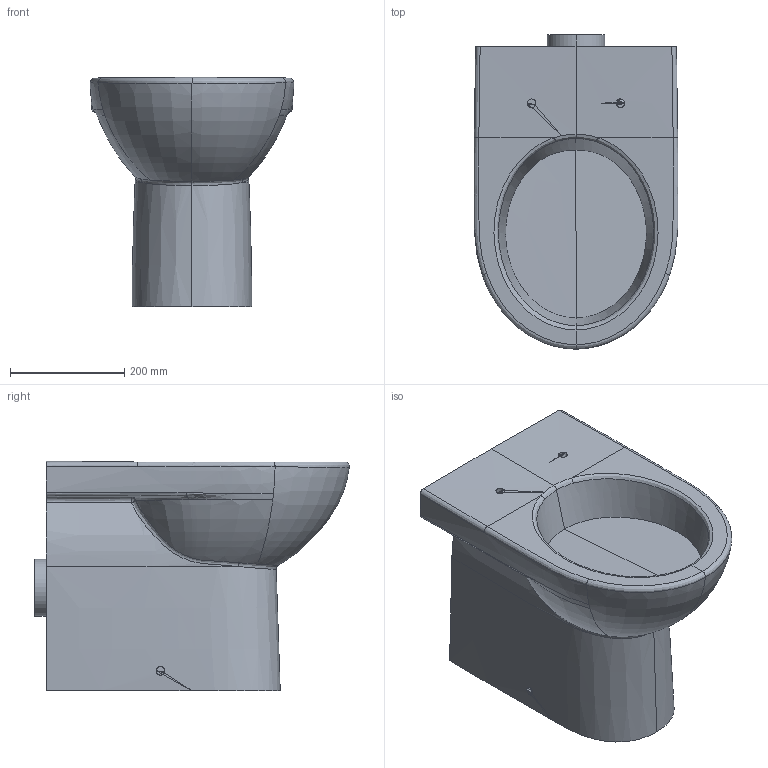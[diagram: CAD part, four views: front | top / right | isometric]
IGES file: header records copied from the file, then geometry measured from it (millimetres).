
Global section: file name: 500286; native system: Autodesk Inventor 2018; preprocessor: unknown; author: seihe2; date: 20200527.083035; units: millimetre
Bounding box: 356.43 x 549.84 x 401.5 mm (x, y, z)
Volume: 34937452.2 mm3; surface area: 865493.1 mm2
Topology: 1 solids, 1 shells, 61 faces, 144 edges, 82 vertices
Faces by surface type: bspline 61
